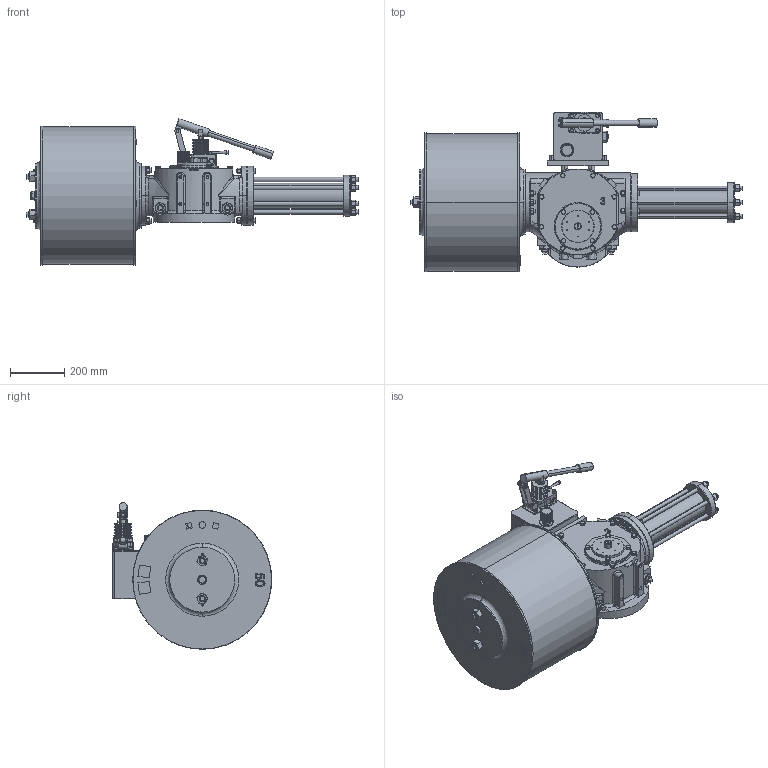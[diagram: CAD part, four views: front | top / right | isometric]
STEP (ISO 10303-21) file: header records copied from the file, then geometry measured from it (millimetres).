
FILE_DESCRIPTION (( 'STEP AP203' ), '1' );
FILE_NAME ('VTS3-500-MH.STEP', '2023-01-01T09:15:30', ( '' ), ( '' ), 'SwSTEP 2.0', 'SolidWorks 2020', '' );
FILE_SCHEMA (( 'CONFIG_CONTROL_DESIGN' ));
Length unit declared in the file: millimetre
Products named in the file (1): VTS3-500-MH
Bounding box: 1226 x 589.9 x 541.27 mm (x, y, z)
Volume: 98333677.6 mm3; surface area: 2668270.6 mm2
Topology: 59 solids, 60 shells, 2584 faces, 6373 edges, 4030 vertices
Faces by surface type: plane 1038, cylinder 856, cone 525, bspline 161, torus 4
Entity records: 93785 total; most frequent: CARTESIAN_POINT 33443, ORIENTED_EDGE 12632, DIRECTION 12476, EDGE_CURVE 6316, AXIS2_PLACEMENT_3D 4885, VERTEX_POINT 4030, EDGE_LOOP 2936, LINE 2706
